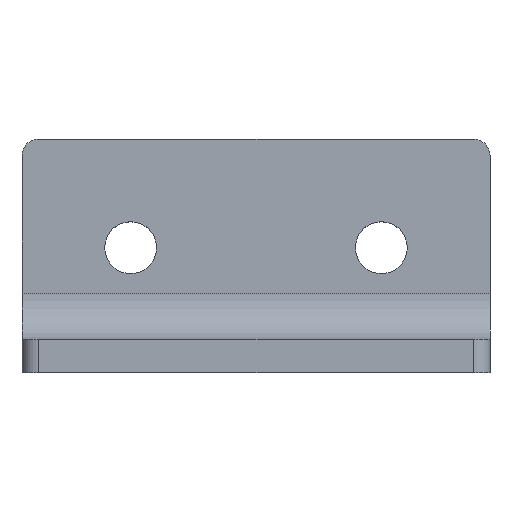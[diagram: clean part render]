
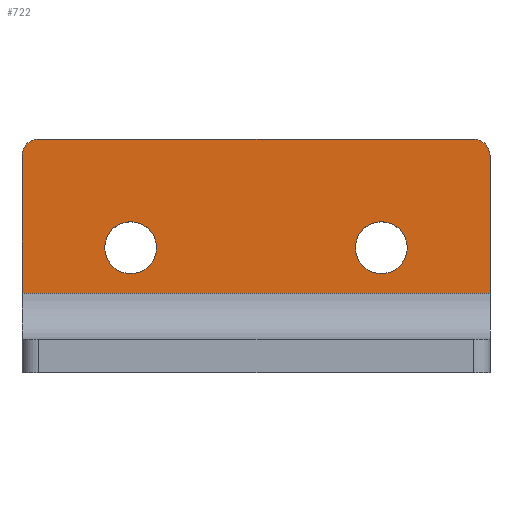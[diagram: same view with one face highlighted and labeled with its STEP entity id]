
A CAD part, top view. The second image highlights one B-rep face of the part: STEP entity #722.
In plain terms, the highlighted planar face has unit normal (0, 0, 1).
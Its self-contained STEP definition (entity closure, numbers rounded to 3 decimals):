
#4 = CIRCLE ( 'NONE', #782, 3.1 ) ;
#6 = VECTOR ( 'NONE', #542, 1000. ) ;
#17 = VERTEX_POINT ( 'NONE', #630 ) ;
#22 = ORIENTED_EDGE ( 'NONE', *, *, #540, .T. ) ;
#29 = EDGE_LOOP ( 'NONE', ( #276, #690 ) ) ;
#36 = DIRECTION ( 'NONE',  ( 0., 0., 1. ) ) ;
#49 = DIRECTION ( 'NONE',  ( 0., 1., 0. ) ) ;
#58 = DIRECTION ( 'NONE',  ( 0., 0., 1. ) ) ;
#59 = CARTESIAN_POINT ( 'NONE',  ( 26.783, 0.197, 4. ) ) ;
#61 = DIRECTION ( 'NONE',  ( 1., 0., 0. ) ) ;
#63 = EDGE_LOOP ( 'NONE', ( #404, #22, #795, #534, #632, #498 ) ) ;
#65 = EDGE_CURVE ( 'NONE', #783, #487, #654, .T. ) ;
#82 = VERTEX_POINT ( 'NONE', #309 ) ;
#85 = DIRECTION ( 'NONE',  ( 0., 0., 1. ) ) ;
#90 = VERTEX_POINT ( 'NONE', #203 ) ;
#95 = EDGE_CURVE ( 'NONE', #192, #263, #294, .T. ) ;
#102 = CARTESIAN_POINT ( 'NONE',  ( -0.117, 0.197, 4. ) ) ;
#114 = CARTESIAN_POINT ( 'NONE',  ( -14.217, 11.197, 4. ) ) ;
#115 = CARTESIAN_POINT ( 'NONE',  ( 39.783, 13.197, 4. ) ) ;
#134 = VERTEX_POINT ( 'NONE', #155 ) ;
#152 = CARTESIAN_POINT ( 'NONE',  ( -16.217, 13.197, 4. ) ) ;
#155 = CARTESIAN_POINT ( 'NONE',  ( 37.783, 13.197, 4. ) ) ;
#164 = CARTESIAN_POINT ( 'NONE',  ( 0., 0., 4. ) ) ;
#192 = VERTEX_POINT ( 'NONE', #602 ) ;
#203 = CARTESIAN_POINT ( 'NONE',  ( -16.217, -5.243, 4. ) ) ;
#214 = VERTEX_POINT ( 'NONE', #798 ) ;
#223 = ORIENTED_EDGE ( 'NONE', *, *, #295, .F. ) ;
#231 = DIRECTION ( 'NONE',  ( 0., 0., 1. ) ) ;
#240 = AXIS2_PLACEMENT_3D ( 'NONE', #164, #231, #482 ) ;
#251 = CARTESIAN_POINT ( 'NONE',  ( 39.783, -5.243, 4. ) ) ;
#254 = EDGE_CURVE ( 'NONE', #263, #192, #4, .T. ) ;
#262 = DIRECTION ( 'NONE',  ( 1., 0., 0. ) ) ;
#263 = VERTEX_POINT ( 'NONE', #102 ) ;
#265 = DIRECTION ( 'NONE',  ( 1., 0., 0. ) ) ;
#276 = ORIENTED_EDGE ( 'NONE', *, *, #254, .F. ) ;
#294 = CIRCLE ( 'NONE', #665, 3.1 ) ;
#295 = EDGE_CURVE ( 'NONE', #82, #17, #727, .T. ) ;
#309 = CARTESIAN_POINT ( 'NONE',  ( 29.883, 0.197, 4. ) ) ;
#317 = VECTOR ( 'NONE', #538, 1000. ) ;
#330 = LINE ( 'NONE', #582, #648 ) ;
#331 = DIRECTION ( 'NONE',  ( 1., 0., 0. ) ) ;
#341 = FACE_BOUND ( 'NONE', #470, .T. ) ;
#347 = CARTESIAN_POINT ( 'NONE',  ( -16.217, 13.197, 4. ) ) ;
#382 = VERTEX_POINT ( 'NONE', #251 ) ;
#384 = CARTESIAN_POINT ( 'NONE',  ( 26.783, 0.197, 4. ) ) ;
#401 = EDGE_CURVE ( 'NONE', #134, #783, #460, .T. ) ;
#404 = ORIENTED_EDGE ( 'NONE', *, *, #493, .T. ) ;
#420 = DIRECTION ( 'NONE',  ( 1., 0., 0. ) ) ;
#438 = AXIS2_PLACEMENT_3D ( 'NONE', #114, #58, #262 ) ;
#449 = DIRECTION ( 'NONE',  ( 0., 0., 1. ) ) ;
#460 = LINE ( 'NONE', #152, #317 ) ;
#470 = EDGE_LOOP ( 'NONE', ( #223, #676 ) ) ;
#480 = VECTOR ( 'NONE', #49, 1000. ) ;
#482 = DIRECTION ( 'NONE',  ( 1., 0., 0. ) ) ;
#487 = VERTEX_POINT ( 'NONE', #607 ) ;
#493 = EDGE_CURVE ( 'NONE', #487, #90, #686, .T. ) ;
#498 = ORIENTED_EDGE ( 'NONE', *, *, #65, .T. ) ;
#507 = EDGE_CURVE ( 'NONE', #214, #134, #714, .T. ) ;
#509 = DIRECTION ( 'NONE',  ( 1., 0., 0. ) ) ;
#511 = CARTESIAN_POINT ( 'NONE',  ( 37.783, 11.197, 4. ) ) ;
#526 = CIRCLE ( 'NONE', #651, 3.1 ) ;
#534 = ORIENTED_EDGE ( 'NONE', *, *, #507, .T. ) ;
#535 = CARTESIAN_POINT ( 'NONE',  ( -3.217, 0.197, 4. ) ) ;
#538 = DIRECTION ( 'NONE',  ( -1., 0., 0. ) ) ;
#540 = EDGE_CURVE ( 'NONE', #90, #382, #330, .T. ) ;
#542 = DIRECTION ( 'NONE',  ( 0., -1., 0. ) ) ;
#549 = CARTESIAN_POINT ( 'NONE',  ( -14.217, 13.197, 4. ) ) ;
#582 = CARTESIAN_POINT ( 'NONE',  ( 0., -5.243, 4. ) ) ;
#602 = CARTESIAN_POINT ( 'NONE',  ( -6.317, 0.197, 4. ) ) ;
#606 = DIRECTION ( 'NONE',  ( 1., 0., 0. ) ) ;
#607 = CARTESIAN_POINT ( 'NONE',  ( -16.217, 11.197, 4. ) ) ;
#627 = DIRECTION ( 'NONE',  ( 0., 0., 1. ) ) ;
#630 = CARTESIAN_POINT ( 'NONE',  ( 23.683, 0.197, 4. ) ) ;
#632 = ORIENTED_EDGE ( 'NONE', *, *, #401, .T. ) ;
#640 = EDGE_CURVE ( 'NONE', #17, #82, #526, .T. ) ;
#648 = VECTOR ( 'NONE', #331, 1000. ) ;
#651 = AXIS2_PLACEMENT_3D ( 'NONE', #59, #705, #61 ) ;
#654 = CIRCLE ( 'NONE', #438, 2. ) ;
#665 = AXIS2_PLACEMENT_3D ( 'NONE', #670, #36, #420 ) ;
#670 = CARTESIAN_POINT ( 'NONE',  ( -3.217, 0.197, 4. ) ) ;
#675 = FACE_OUTER_BOUND ( 'NONE', #63, .T. ) ;
#676 = ORIENTED_EDGE ( 'NONE', *, *, #640, .F. ) ;
#686 = LINE ( 'NONE', #347, #6 ) ;
#690 = ORIENTED_EDGE ( 'NONE', *, *, #95, .F. ) ;
#705 = DIRECTION ( 'NONE',  ( 0., 0., 1. ) ) ;
#711 = AXIS2_PLACEMENT_3D ( 'NONE', #511, #449, #265 ) ;
#714 = CIRCLE ( 'NONE', #711, 2. ) ;
#722 = ADVANCED_FACE ( 'NONE', ( #675, #832, #341 ), #815, .T. ) ;
#727 = CIRCLE ( 'NONE', #826, 3.1 ) ;
#730 = EDGE_CURVE ( 'NONE', #382, #214, #811, .T. ) ;
#782 = AXIS2_PLACEMENT_3D ( 'NONE', #535, #85, #606 ) ;
#783 = VERTEX_POINT ( 'NONE', #549 ) ;
#795 = ORIENTED_EDGE ( 'NONE', *, *, #730, .T. ) ;
#798 = CARTESIAN_POINT ( 'NONE',  ( 39.783, 11.197, 4. ) ) ;
#811 = LINE ( 'NONE', #115, #480 ) ;
#815 = PLANE ( 'NONE',  #240 ) ;
#826 = AXIS2_PLACEMENT_3D ( 'NONE', #384, #627, #509 ) ;
#832 = FACE_BOUND ( 'NONE', #29, .T. ) ;
